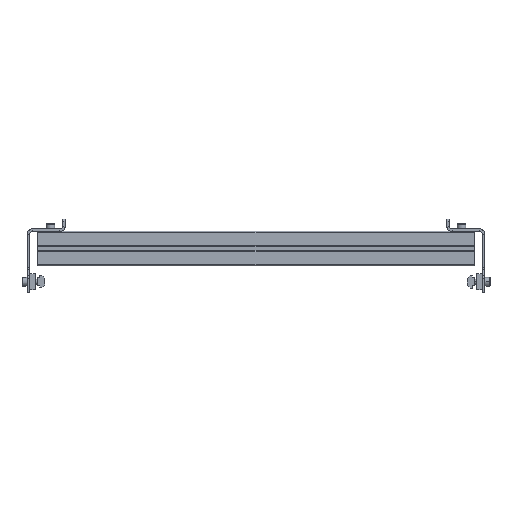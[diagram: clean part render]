
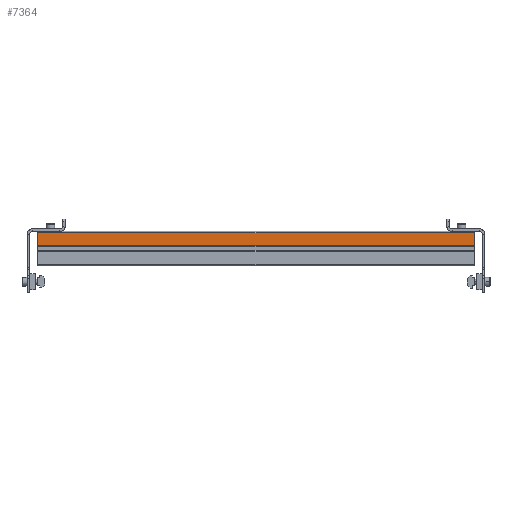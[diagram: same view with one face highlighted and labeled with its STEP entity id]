
A CAD part, top view. The second image highlights one B-rep face of the part: STEP entity #7364.
In plain terms, the highlighted planar face has unit normal (0, 0, 1) as drawn and (0, 1, 0) by its records, which use the part's own axes.
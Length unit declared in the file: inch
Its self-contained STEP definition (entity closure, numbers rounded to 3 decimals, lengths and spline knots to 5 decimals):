
#1 = CARTESIAN_POINT ( 'NONE',  ( -0.14758, 0.441, -9.98 ) ) ;
#86 = VERTEX_POINT ( 'NONE', #4378 ) ;
#311 = VERTEX_POINT ( 'NONE', #3947 ) ;
#698 = EDGE_LOOP ( 'NONE', ( #2672, #5531, #6123, #3491 ) ) ;
#1070 = AXIS2_PLACEMENT_3D ( 'NONE', #6919, #1722, #6805 ) ;
#1144 = CARTESIAN_POINT ( 'NONE',  ( -0.725, 0.441, -9.98 ) ) ;
#1247 = VECTOR ( 'NONE', #8047, 39.37008 ) ;
#1401 = LINE ( 'NONE', #8266, #1997 ) ;
#1722 = DIRECTION ( 'NONE',  ( 0., -1., 0. ) ) ;
#1916 = FACE_OUTER_BOUND ( 'NONE', #698, .T. ) ;
#1997 = VECTOR ( 'NONE', #5806, 39.37008 ) ;
#2672 = ORIENTED_EDGE ( 'NONE', *, *, #7194, .F. ) ;
#3491 = ORIENTED_EDGE ( 'NONE', *, *, #6133, .F. ) ;
#3560 = CARTESIAN_POINT ( 'NONE',  ( 0.7875, 0.441, 9.98 ) ) ;
#3624 = VERTEX_POINT ( 'NONE', #1144 ) ;
#3947 = CARTESIAN_POINT ( 'NONE',  ( -0.14758, 0.441, 9.98 ) ) ;
#4027 = LINE ( 'NONE', #7328, #6947 ) ;
#4223 = PLANE ( 'NONE',  #1070 ) ;
#4378 = CARTESIAN_POINT ( 'NONE',  ( -0.725, 0.441, 9.98 ) ) ;
#4631 = VERTEX_POINT ( 'NONE', #1 ) ;
#4880 = EDGE_CURVE ( 'NONE', #3624, #4631, #1401, .T. ) ;
#5034 = LINE ( 'NONE', #7337, #7258 ) ;
#5531 = ORIENTED_EDGE ( 'NONE', *, *, #4880, .F. ) ;
#5806 = DIRECTION ( 'NONE',  ( 1., 0., 0. ) ) ;
#6112 = DIRECTION ( 'NONE',  ( 0., 0., 1. ) ) ;
#6123 = ORIENTED_EDGE ( 'NONE', *, *, #7890, .T. ) ;
#6133 = EDGE_CURVE ( 'NONE', #311, #86, #6456, .T. ) ;
#6456 = LINE ( 'NONE', #3560, #1247 ) ;
#6805 = DIRECTION ( 'NONE',  ( 0., 0., -1. ) ) ;
#6919 = CARTESIAN_POINT ( 'NONE',  ( -0.7875, 0.441, 75. ) ) ;
#6947 = VECTOR ( 'NONE', #7360, 39.37008 ) ;
#7194 = EDGE_CURVE ( 'NONE', #4631, #311, #5034, .T. ) ;
#7258 = VECTOR ( 'NONE', #6112, 39.37008 ) ;
#7328 = CARTESIAN_POINT ( 'NONE',  ( -0.725, 0.441, 75. ) ) ;
#7337 = CARTESIAN_POINT ( 'NONE',  ( -0.14758, 0.441, -75. ) ) ;
#7360 = DIRECTION ( 'NONE',  ( 0., 0., 1. ) ) ;
#7364 = ADVANCED_FACE ( 'NONE', ( #1916 ), #4223, .F. ) ;
#7890 = EDGE_CURVE ( 'NONE', #3624, #86, #4027, .T. ) ;
#8047 = DIRECTION ( 'NONE',  ( -1., 0., 0. ) ) ;
#8266 = CARTESIAN_POINT ( 'NONE',  ( 0.7875, 0.441, -9.98 ) ) ;
